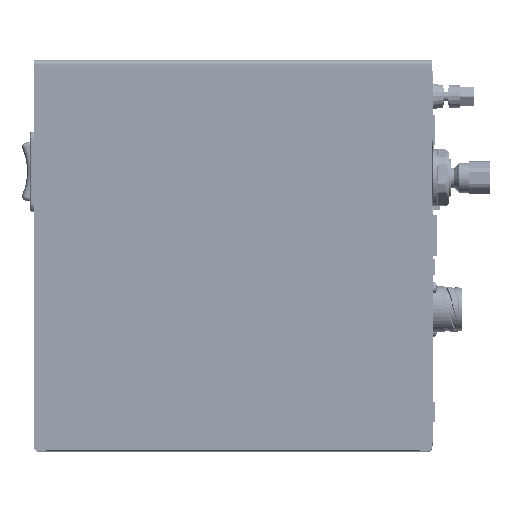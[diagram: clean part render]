
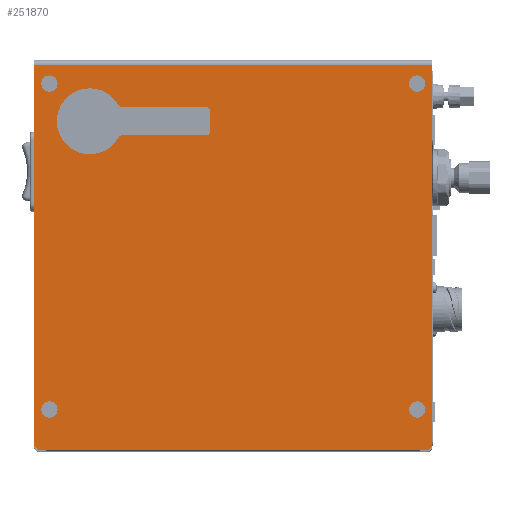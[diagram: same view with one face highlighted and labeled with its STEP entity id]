
A CAD part, top view. The second image highlights one B-rep face of the part: STEP entity #251870.
In plain terms, the highlighted planar face has unit normal (0, 0, 1).
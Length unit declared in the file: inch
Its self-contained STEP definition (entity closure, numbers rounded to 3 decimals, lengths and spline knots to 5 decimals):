
#1447 = CIRCLE ( 'NONE', #188493, 0.125 ) ;
#4832 = ORIENTED_EDGE ( 'NONE', *, *, #48142, .F. ) ;
#6937 = CIRCLE ( 'NONE', #211791, 0.125 ) ;
#11802 = AXIS2_PLACEMENT_3D ( 'NONE', #414558, #704542, #536354 ) ;
#15096 = CARTESIAN_POINT ( 'NONE',  ( 8.54083, 9.01999, 5.374 ) ) ;
#16970 = EDGE_CURVE ( 'NONE', #231058, #270812, #621087, .T. ) ;
#28790 = CARTESIAN_POINT ( 'NONE',  ( 8.16583, 8.43999, 5.374 ) ) ;
#37116 = ORIENTED_EDGE ( 'NONE', *, *, #267720, .F. ) ;
#38958 = CIRCLE ( 'NONE', #407882, 0.125 ) ;
#46008 = EDGE_CURVE ( 'NONE', #318633, #525827, #493291, .T. ) ;
#46785 = VERTEX_POINT ( 'NONE', #443552 ) ;
#48142 = EDGE_CURVE ( 'NONE', #46785, #553247, #121192, .T. ) ;
#49516 = CARTESIAN_POINT ( 'NONE',  ( -0.85917, 8.56499, 5.374 ) ) ;
#58359 = DIRECTION ( 'NONE',  ( 0., 1., 0. ) ) ;
#63135 = CARTESIAN_POINT ( 'NONE',  ( -0.85917, 0.56499, 5.374 ) ) ;
#78964 = CARTESIAN_POINT ( 'NONE',  ( 8.16583, 0.56499, 5.374 ) ) ;
#86475 = DIRECTION ( 'NONE',  ( 0., 0., 1. ) ) ;
#95303 = VERTEX_POINT ( 'NONE', #694269 ) ;
#95432 = DIRECTION ( 'NONE',  ( 0., 1., 0. ) ) ;
#95787 = EDGE_CURVE ( 'NONE', #662352, #162659, #295975, .T. ) ;
#99330 = ORIENTED_EDGE ( 'NONE', *, *, #46008, .F. ) ;
#120623 = EDGE_LOOP ( 'NONE', ( #4832, #602297, #141311, #443520, #376239, #612663 ) ) ;
#121192 = LINE ( 'NONE', #619165, #123623 ) ;
#123623 = VECTOR ( 'NONE', #689583, 39.37008 ) ;
#141311 = ORIENTED_EDGE ( 'NONE', *, *, #443802, .T. ) ;
#152360 = ORIENTED_EDGE ( 'NONE', *, *, #179086, .F. ) ;
#155643 = CARTESIAN_POINT ( 'NONE',  ( -0.85917, 8.43999, 5.374 ) ) ;
#158167 = DIRECTION ( 'NONE',  ( 1., 0., 0. ) ) ;
#161729 = DIRECTION ( 'NONE',  ( 0., 1., 0. ) ) ;
#162659 = VERTEX_POINT ( 'NONE', #28790 ) ;
#162920 = EDGE_LOOP ( 'NONE', ( #152360, #569742 ) ) ;
#162952 = CARTESIAN_POINT ( 'NONE',  ( -1.23417, -0.42001, 5.374 ) ) ;
#163434 = DIRECTION ( 'NONE',  ( 0., 1., 0. ) ) ;
#164848 = LINE ( 'NONE', #263683, #407633 ) ;
#168672 = CIRCLE ( 'NONE', #645713, 0.125 ) ;
#170928 = CARTESIAN_POINT ( 'NONE',  ( 8.16583, 0.68999, 5.374 ) ) ;
#174208 = VERTEX_POINT ( 'NONE', #155643 ) ;
#179086 = EDGE_CURVE ( 'NONE', #162659, #662352, #6937, .T. ) ;
#188493 = AXIS2_PLACEMENT_3D ( 'NONE', #644022, #631113, #163434 ) ;
#199131 = FACE_BOUND ( 'NONE', #544160, .T. ) ;
#200396 = EDGE_CURVE ( 'NONE', #208313, #553247, #439965, .T. ) ;
#208313 = VERTEX_POINT ( 'NONE', #406353 ) ;
#211791 = AXIS2_PLACEMENT_3D ( 'NONE', #478891, #86475, #161729 ) ;
#218142 = DIRECTION ( 'NONE',  ( 0., -1., 0. ) ) ;
#231058 = VERTEX_POINT ( 'NONE', #627518 ) ;
#233851 = EDGE_CURVE ( 'NONE', #95303, #46785, #164848, .T. ) ;
#237646 = ORIENTED_EDGE ( 'NONE', *, *, #666600, .F. ) ;
#241016 = DIRECTION ( 'NONE',  ( 0., 0., 1. ) ) ;
#251714 = VERTEX_POINT ( 'NONE', #306312 ) ;
#251870 = ADVANCED_FACE ( 'NONE', ( #423895, #421555, #199131, #429852, #671645 ), #269434, .F. ) ;
#252855 = CARTESIAN_POINT ( 'NONE',  ( 8.54083, 9.07999, 5.374 ) ) ;
#257626 = DIRECTION ( 'NONE',  ( 0., 1., 0. ) ) ;
#263683 = CARTESIAN_POINT ( 'NONE',  ( -1.23417, 9.07999, 5.374 ) ) ;
#264207 = DIRECTION ( 'NONE',  ( 0., 0., 1. ) ) ;
#266346 = DIRECTION ( 'NONE',  ( 0., 1., 0. ) ) ;
#267098 = ORIENTED_EDGE ( 'NONE', *, *, #586690, .F. ) ;
#267720 = EDGE_CURVE ( 'NONE', #516701, #251714, #38958, .T. ) ;
#269434 = PLANE ( 'NONE',  #465256 ) ;
#270812 = VERTEX_POINT ( 'NONE', #371708 ) ;
#274998 = DIRECTION ( 'NONE',  ( 0., 0., 1. ) ) ;
#279720 = CARTESIAN_POINT ( 'NONE',  ( 8.16583, 8.68999, 5.374 ) ) ;
#283800 = DIRECTION ( 'NONE',  ( 0., 0., -1. ) ) ;
#293413 = VECTOR ( 'NONE', #717694, 39.37008 ) ;
#295490 = AXIS2_PLACEMENT_3D ( 'NONE', #540328, #693998, #703641 ) ;
#295975 = CIRCLE ( 'NONE', #11802, 0.125 ) ;
#306312 = CARTESIAN_POINT ( 'NONE',  ( 8.16583, 0.43999, 5.374 ) ) ;
#310087 = CARTESIAN_POINT ( 'NONE',  ( -0.85917, 0.43999, 5.374 ) ) ;
#313154 = CARTESIAN_POINT ( 'NONE',  ( -0.85917, 0.68999, 5.374 ) ) ;
#313435 = DIRECTION ( 'NONE',  ( 0.707, -0.707, 0. ) ) ;
#318633 = VERTEX_POINT ( 'NONE', #310087 ) ;
#321256 = EDGE_CURVE ( 'NONE', #174208, #534043, #666353, .T. ) ;
#327252 = DIRECTION ( 'NONE',  ( 0., 0., 1. ) ) ;
#339643 = CARTESIAN_POINT ( 'NONE',  ( -0.85917, 8.68999, 5.374 ) ) ;
#343335 = EDGE_LOOP ( 'NONE', ( #37116, #237646 ) ) ;
#371708 = CARTESIAN_POINT ( 'NONE',  ( 8.44683, -0.42001, 5.374 ) ) ;
#376239 = ORIENTED_EDGE ( 'NONE', *, *, #708065, .T. ) ;
#376528 = CARTESIAN_POINT ( 'NONE',  ( 8.54083, -0.32601, 5.374 ) ) ;
#401643 = AXIS2_PLACEMENT_3D ( 'NONE', #63135, #241016, #58359 ) ;
#406353 = CARTESIAN_POINT ( 'NONE',  ( 8.54083, -0.32601, 5.374 ) ) ;
#407633 = VECTOR ( 'NONE', #95432, 39.37008 ) ;
#407882 = AXIS2_PLACEMENT_3D ( 'NONE', #78964, #327252, #266346 ) ;
#414558 = CARTESIAN_POINT ( 'NONE',  ( 8.16583, 8.56499, 5.374 ) ) ;
#421555 = FACE_BOUND ( 'NONE', #607590, .T. ) ;
#423895 = FACE_BOUND ( 'NONE', #162920, .T. ) ;
#425367 = ORIENTED_EDGE ( 'NONE', *, *, #321256, .F. ) ;
#429852 = FACE_BOUND ( 'NONE', #343335, .T. ) ;
#439965 = LINE ( 'NONE', #252855, #704662 ) ;
#443520 = ORIENTED_EDGE ( 'NONE', *, *, #16970, .T. ) ;
#443552 = CARTESIAN_POINT ( 'NONE',  ( -1.23417, 9.01999, 5.374 ) ) ;
#443802 = EDGE_CURVE ( 'NONE', #95303, #231058, #709741, .T. ) ;
#451720 = DIRECTION ( 'NONE',  ( 0., -1., 0. ) ) ;
#456421 = EDGE_CURVE ( 'NONE', #534043, #174208, #168672, .T. ) ;
#465256 = AXIS2_PLACEMENT_3D ( 'NONE', #564169, #283800, #218142 ) ;
#471965 = CARTESIAN_POINT ( 'NONE',  ( -1.14017, -0.42001, 5.374 ) ) ;
#478891 = CARTESIAN_POINT ( 'NONE',  ( 8.16583, 8.56499, 5.374 ) ) ;
#481161 = VECTOR ( 'NONE', #313435, 39.37008 ) ;
#493291 = CIRCLE ( 'NONE', #645093, 0.125 ) ;
#514616 = LINE ( 'NONE', #376528, #293413 ) ;
#516701 = VERTEX_POINT ( 'NONE', #170928 ) ;
#525827 = VERTEX_POINT ( 'NONE', #313154 ) ;
#530004 = CIRCLE ( 'NONE', #401643, 0.125 ) ;
#534043 = VERTEX_POINT ( 'NONE', #339643 ) ;
#536354 = DIRECTION ( 'NONE',  ( 0., 1., 0. ) ) ;
#540328 = CARTESIAN_POINT ( 'NONE',  ( -0.85917, 8.56499, 5.374 ) ) ;
#544160 = EDGE_LOOP ( 'NONE', ( #267098, #99330 ) ) ;
#553247 = VERTEX_POINT ( 'NONE', #15096 ) ;
#564169 = CARTESIAN_POINT ( 'NONE',  ( -1.23417, 9.07999, 5.374 ) ) ;
#569742 = ORIENTED_EDGE ( 'NONE', *, *, #95787, .F. ) ;
#586690 = EDGE_CURVE ( 'NONE', #525827, #318633, #530004, .T. ) ;
#601799 = CARTESIAN_POINT ( 'NONE',  ( -0.85917, 0.56499, 5.374 ) ) ;
#602297 = ORIENTED_EDGE ( 'NONE', *, *, #233851, .F. ) ;
#607590 = EDGE_LOOP ( 'NONE', ( #425367, #655215 ) ) ;
#607985 = VECTOR ( 'NONE', #158167, 39.37008 ) ;
#612663 = ORIENTED_EDGE ( 'NONE', *, *, #200396, .T. ) ;
#619165 = CARTESIAN_POINT ( 'NONE',  ( -1.23417, 9.01999, 5.374 ) ) ;
#621087 = LINE ( 'NONE', #162952, #607985 ) ;
#627518 = CARTESIAN_POINT ( 'NONE',  ( -1.14017, -0.42001, 5.374 ) ) ;
#631113 = DIRECTION ( 'NONE',  ( 0., 0., 1. ) ) ;
#644022 = CARTESIAN_POINT ( 'NONE',  ( 8.16583, 0.56499, 5.374 ) ) ;
#645093 = AXIS2_PLACEMENT_3D ( 'NONE', #601799, #274998, #648220 ) ;
#645713 = AXIS2_PLACEMENT_3D ( 'NONE', #49516, #264207, #451720 ) ;
#648220 = DIRECTION ( 'NONE',  ( 0., 1., 0. ) ) ;
#655215 = ORIENTED_EDGE ( 'NONE', *, *, #456421, .F. ) ;
#662352 = VERTEX_POINT ( 'NONE', #279720 ) ;
#666353 = CIRCLE ( 'NONE', #295490, 0.125 ) ;
#666600 = EDGE_CURVE ( 'NONE', #251714, #516701, #1447, .T. ) ;
#671645 = FACE_OUTER_BOUND ( 'NONE', #120623, .T. ) ;
#689583 = DIRECTION ( 'NONE',  ( 1., 0., 0. ) ) ;
#693998 = DIRECTION ( 'NONE',  ( 0., 0., 1. ) ) ;
#694269 = CARTESIAN_POINT ( 'NONE',  ( -1.23417, -0.32601, 5.374 ) ) ;
#703641 = DIRECTION ( 'NONE',  ( 0., -1., 0. ) ) ;
#704542 = DIRECTION ( 'NONE',  ( 0., 0., 1. ) ) ;
#704662 = VECTOR ( 'NONE', #257626, 39.37008 ) ;
#708065 = EDGE_CURVE ( 'NONE', #270812, #208313, #514616, .T. ) ;
#709741 = LINE ( 'NONE', #471965, #481161 ) ;
#717694 = DIRECTION ( 'NONE',  ( 0.707, 0.707, 0. ) ) ;
